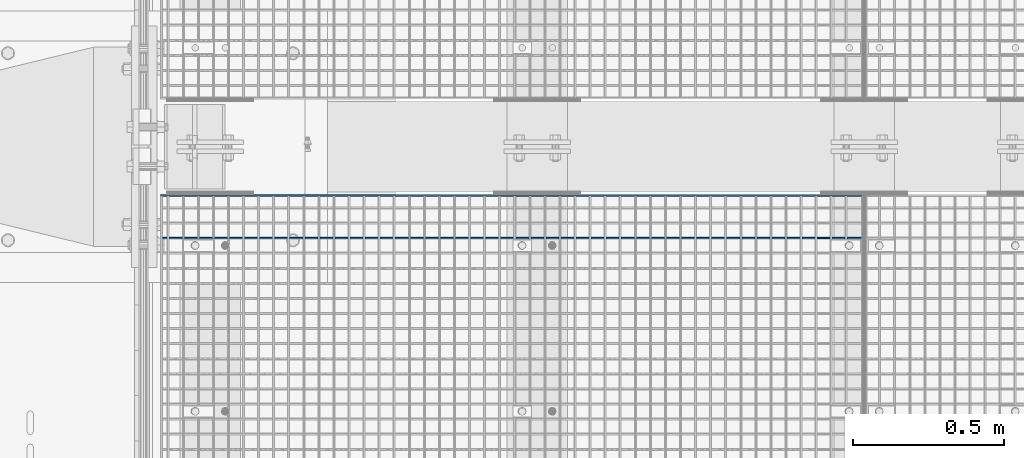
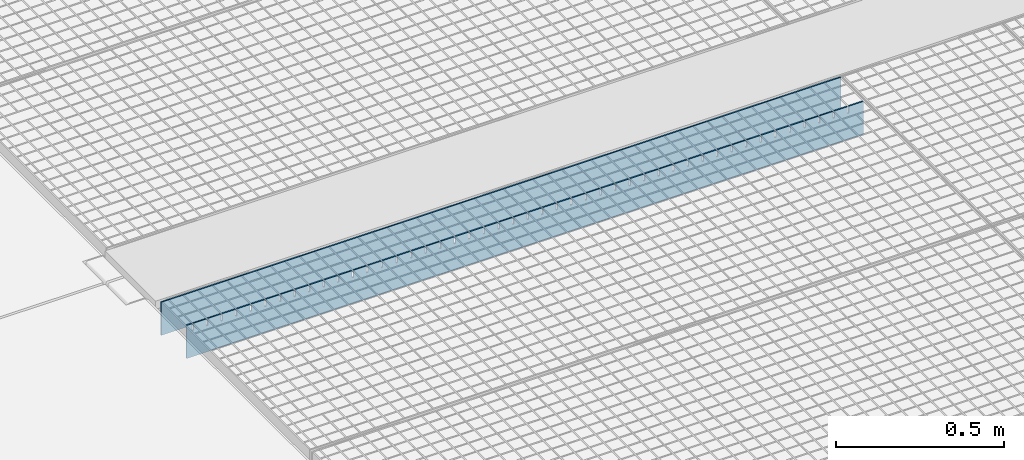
# One storey, part 320 of 1530: 2 beams.
"""IFC2X3 building model written with IfcOpenShell, lengths in millimetres."""

from ifc_helpers import new_model, si_unit, frame, origin_with_axes, place, context, subcontext, project, spatial, faceted_brep, material, type_object, element, save


model = new_model("IFC2X3")

# Units and contexts
model_context = context("Model", 3, precision=1e-05, world=origin_with_axes())
body_context = subcontext(model_context, "Body", "Model", "MODEL_VIEW")
ifc_project = project(units=[si_unit("LENGTHUNIT", "METRE", prefix="MILLI"), si_unit("AREAUNIT", "SQUARE_METRE"), si_unit("VOLUMEUNIT", "CUBIC_METRE"), si_unit("MASSUNIT", "GRAM", prefix="KILO"), si_unit("TIMEUNIT", "SECOND"), si_unit("PLANEANGLEUNIT", "RADIAN"), si_unit("SOLIDANGLEUNIT", "STERADIAN"), si_unit("THERMODYNAMICTEMPERATUREUNIT", "DEGREE_CELSIUS"), si_unit("LUMINOUSINTENSITYUNIT", "LUMEN")], contexts=[model_context])

# Site, building, storey
site_placement = place(None, origin_with_axes())
site = spatial("IfcSite", under=ifc_project, at=site_placement, Name="Brattvåg", CompositionType="ELEMENT")
building_placement = place(site_placement, origin_with_axes())
building = spatial("IfcBuilding", under=site, at=building_placement, Name="Undefined", CompositionType="ELEMENT")
storey_placement = place(building_placement, origin_with_axes())
storey = spatial("IfcBuildingStorey", under=building, at=storey_placement, Name="Undefined", CompositionType="ELEMENT", Elevation=0.0)

# Beams
ifc_material = material(Name="STEEL/S355J2")
beam_type = type_object("IfcBeamType", Name="120*5", PredefinedType="NOTDEFINED")
beam_1_placement = place(storey_placement, frame((2347.01317977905, 5696.99563598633, -59.9998626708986), z_axis=(0.0, 0.0, 1.0), x_axis=(-1.0, 1.99999855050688e-09, 0.0)))
element("IfcBeam", 1, at=beam_1_placement, inside=storey, type_object=beam_type, material=ifc_material, Name="GRATING", context=body_context, shape_type="Brep", body=[
    faceted_brep([(99.4490367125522, -2.50000000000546, 60.0000722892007), (99.4490367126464, -2.50000000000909, 35.0001373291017), (99.4490367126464, 2.50022888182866, 35.0001373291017), (99.4490367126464, 2.5, 60.0), (104.449036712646, -2.50000000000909, 35.0001373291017), (104.449036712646, 2.50022888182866, 35.0001373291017), (104.449036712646, -2.50000000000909, 60.0001373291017), (104.449036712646, 2.5, 60.0), (54.5084370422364, -2.50000000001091, 60.0001373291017), (54.5084370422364, 2.5, 60.0), (54.5084370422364, 2.49999999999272, 35.0001373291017), (54.5084370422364, -2.50000000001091, 35.0001373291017), (49.5084370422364, 2.49999999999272, 35.0001373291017), (49.5084370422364, -2.50000000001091, 35.0001373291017), (49.5084370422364, -2.5, 60.0), (49.5084370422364, 2.5, 60.0), (0.0, 2.5, 60.0), (0.0, -2.5, 60.0), (0.0, -2.5, -60.0), (0.0, 2.5, -60.0), (2319.99865722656, 2.5, -60.0), (2319.99865722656, -2.5, -60.0), (2319.99865722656, -2.5, 60.0), (2319.99865722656, 2.5, 60.0), (2302.24871932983, 2.5, 60.0), (2302.24871932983, -2.50000000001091, 60.0001373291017), (2302.24871932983, 2.49999999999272, 35.0001373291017), (2302.24871932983, -2.50000000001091, 35.0001373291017), (2297.24871932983, 2.49999999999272, 35.0001373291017), (2297.24871932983, -2.50000000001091, 35.0001373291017), (2297.24871932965, -2.50000000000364, 60.0000461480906), (2297.24871932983, 2.5, 60.0), (2252.29859649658, 2.5, 60.0), (2252.29859649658, -2.50000000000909, 60.0001373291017), (2252.29859649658, 2.50022888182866, 35.0001373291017), (2252.29859649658, -2.50000000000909, 35.0001373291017), (2247.29859649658, 2.50022888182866, 35.0001373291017), (2247.29859649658, -2.50000000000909, 35.0001373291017), (2247.29859649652, -2.50000000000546, 60.0000848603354), (2247.29859649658, 2.5, 60.0), (2202.34847366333, 2.5, 60.0), (2202.34847366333, -2.50000000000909, 60.0001373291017), (2202.34847366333, 2.50022888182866, 35.0001373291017), (2202.34847366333, -2.50000000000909, 35.0001373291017), (2197.34847366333, 2.50022888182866, 35.0001373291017), (2197.34847366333, -2.50000000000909, 35.0001373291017), (2197.34847366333, -2.5, 60.0), (2197.34847366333, 2.5, 60.0), (2152.39882766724, 2.5, 60.0), (2152.39882766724, -2.50000000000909, 60.0001373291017), (2152.39882766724, 2.50022888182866, 35.0001373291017), (2152.39882766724, -2.50000000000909, 35.0001373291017), (2147.39882766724, 2.50022888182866, 35.0001373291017), (2147.39882766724, -2.50000000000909, 35.0001373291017), (2147.39882766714, -2.50000000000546, 60.0000722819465), (2147.39882766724, 2.5, 60.0), (2102.44870483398, 2.5, 60.0), (2102.44870483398, -2.50000000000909, 60.0001373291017), (2102.44870483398, 2.50022888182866, 35.0001373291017), (2102.44870483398, -2.50000000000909, 35.0001373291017), (2097.44870483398, 2.50022888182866, 35.0001373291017), (2097.44870483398, -2.50000000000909, 35.0001373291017), (2097.44870483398, -2.5, 60.0), (2097.44870483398, 2.5, 60.0), (2052.49858200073, 2.5, 60.0), (2052.49858200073, -2.50000000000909, 60.0001373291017), (2052.49858200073, 2.50022888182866, 35.0001373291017), (2052.49858200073, -2.50000000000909, 35.0001373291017), (2047.49858200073, 2.50022888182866, 35.0001373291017), (2047.49858200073, -2.50000000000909, 35.0001373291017), (2047.49858200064, -2.50000000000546, 60.0000722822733), (2047.49858200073, 2.5, 60.0), (2002.54845916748, 2.5, 60.0), (2002.54845916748, -2.50000000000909, 60.0001373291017), (2002.54845916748, 2.50022888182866, 35.0001373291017), (2002.54845916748, -2.50000000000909, 35.0001373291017), (1997.54845916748, 2.50022888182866, 35.0001373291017), (1997.54845916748, -2.50000000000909, 35.0001373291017), (1997.54845916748, -2.5, 60.0), (1997.54845916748, 2.5, 60.0), (1952.59881317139, 2.5, 60.0), (1952.59881317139, -2.50000000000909, 60.0001373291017), (1952.59881317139, 2.50022888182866, 35.0001373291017), (1952.59881317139, -2.50000000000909, 35.0001373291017), (1947.59881317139, 2.50022888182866, 35.0001373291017), (1947.59881317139, -2.50000000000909, 35.0001373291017), (1947.59881317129, -2.50000000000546, 60.0000722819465), (1947.59881317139, 2.5, 60.0), (1902.64869033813, 2.5, 60.0), (1902.64869033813, -2.50000000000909, 60.0001373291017), (1902.64869033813, 2.50022888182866, 35.0001373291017), (1902.64869033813, -2.50000000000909, 35.0001373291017), (1897.64869033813, 2.50022888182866, 35.0001373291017), (1897.64869033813, -2.50000000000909, 35.0001373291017), (1897.64869033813, -2.5, 60.0), (1897.64869033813, 2.5, 60.0), (1852.69856750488, 2.5, 60.0), (1852.69856750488, -2.50000000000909, 60.0001373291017), (1852.69856750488, 2.50022888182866, 35.0001373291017), (1852.69856750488, -2.50000000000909, 35.0001373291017), (1847.69856750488, 2.50022888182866, 35.0001373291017), (1847.69856750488, -2.50000000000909, 35.0001373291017), (1847.69856750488, -2.5, 60.0), (1847.69856750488, 2.5, 60.0), (1802.74892150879, 2.5, 60.0), (1802.74892150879, -2.50000000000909, 60.0001373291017), (1802.74892150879, 2.50022888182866, 35.0001373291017), (1802.74892150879, -2.50000000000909, 35.0001373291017), (1797.74892150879, 2.50022888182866, 35.0001373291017), (1797.74892150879, -2.50000000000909, 35.0001373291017), (1797.74892150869, -2.50000000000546, 60.0000722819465), (1797.74892150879, 2.5, 60.0), (1752.79879867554, 2.5, 60.0), (1752.79879867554, -2.50000000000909, 60.0001373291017), (1752.79879867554, 2.50022888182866, 35.0001373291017), (1752.79879867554, -2.50000000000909, 35.0001373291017), (1747.79879867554, 2.50022888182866, 35.0001373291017), (1747.79879867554, -2.50000000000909, 35.0001373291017), (1747.79879867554, -2.5, 60.0), (1747.79879867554, 2.5, 60.0), (1702.84867584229, 2.5, 60.0), (1702.84867584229, -2.50000000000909, 60.0001373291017), (1702.84867584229, 2.50022888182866, 35.0001373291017), (1702.84867584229, -2.50000000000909, 35.0001373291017), (1697.84867584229, 2.50022888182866, 35.0001373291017), (1697.84867584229, -2.50000000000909, 35.0001373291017), (1697.84867584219, -2.50000000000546, 60.0000722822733), (1697.84867584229, 2.5, 60.0), (1652.89855300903, 2.5, 60.0), (1652.89855300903, -2.50000000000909, 60.0001373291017), (1652.89855300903, 2.50022888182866, 35.0001373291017), (1652.89855300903, -2.50000000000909, 35.0001373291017), (1647.89855300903, 2.50022888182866, 35.0001373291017), (1647.89855300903, -2.50000000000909, 35.0001373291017), (1647.89855300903, -2.5, 60.0), (1647.89855300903, 2.5, 60.0), (1602.94890701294, 2.5, 60.0), (1602.94890701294, -2.50000000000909, 60.0001373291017), (1602.94890701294, 2.50022888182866, 35.0001373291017), (1602.94890701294, -2.50000000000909, 35.0001373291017), (1597.94890701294, 2.50022888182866, 35.0001373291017), (1597.94890701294, -2.50000000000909, 35.0001373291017), (1597.94890701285, -2.50000000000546, 60.0000722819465), (1597.94890701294, 2.5, 60.0), (1552.99878417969, 2.5, 60.0), (1552.99878417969, -2.50000000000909, 60.0001373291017), (1552.99878417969, 2.50022888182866, 35.0001373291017), (1552.99878417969, -2.50000000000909, 35.0001373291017), (1547.99878417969, 2.50022888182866, 35.0001373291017), (1547.99878417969, -2.50000000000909, 35.0001373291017), (1547.99878417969, -2.5, 60.0), (1547.99878417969, 2.5, 60.0), (1503.04866134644, 2.5, 60.0), (1503.04866134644, -2.50000000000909, 60.0001373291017), (1503.04866134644, 2.50022888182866, 35.0001373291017), (1503.04866134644, -2.50000000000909, 35.0001373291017), (1498.04866134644, 2.50022888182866, 35.0001373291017), (1498.04866134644, -2.50000000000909, 35.0001373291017), (1498.04866134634, -2.50000000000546, 60.0000722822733), (1498.04866134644, 2.5, 60.0), (1453.09853851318, 2.5, 60.0), (1453.09853851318, -2.50000000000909, 60.0001373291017), (1453.09853851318, 2.50022888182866, 35.0001373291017), (1453.09853851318, -2.50000000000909, 35.0001373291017), (1448.09853851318, 2.50022888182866, 35.0001373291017), (1448.09853851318, -2.50000000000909, 35.0001373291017), (1448.09853851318, -2.5, 60.0), (1448.09853851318, 2.5, 60.0), (1403.14889251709, 2.5, 60.0), (1403.14889251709, -2.50000000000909, 60.0001373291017), (1403.14889251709, 2.50022888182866, 35.0001373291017), (1403.14889251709, -2.50000000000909, 35.0001373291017), (1398.14889251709, 2.50022888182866, 35.0001373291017), (1398.14889251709, -2.50000000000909, 35.0001373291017), (1398.148892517, -2.50000000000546, 60.0000722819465), (1398.14889251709, 2.5, 60.0), (1353.19876968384, 2.5, 60.0), (1353.19876968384, -2.50000000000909, 60.0001373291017), (1353.19876968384, 2.50022888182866, 35.0001373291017), (1353.19876968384, -2.50000000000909, 35.0001373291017), (1348.19876968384, 2.50022888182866, 35.0001373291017), (1348.19876968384, -2.50000000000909, 35.0001373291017), (1348.19876968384, -2.5, 60.0), (1348.19876968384, 2.5, 60.0), (1303.24864685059, 2.5, 60.0), (1303.24864685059, -2.50000000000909, 60.0001373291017), (1303.24864685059, 2.50022888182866, 35.0001373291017), (1303.24864685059, -2.50000000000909, 35.0001373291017), (1298.24864685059, 2.50022888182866, 35.0001373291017), (1298.24864685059, -2.50000000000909, 35.0001373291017), (1298.24864685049, -2.50000000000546, 60.0000722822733), (1298.24864685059, 2.5, 60.0), (1253.29852401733, 2.5, 60.0), (1253.29852401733, -2.50000000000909, 60.0001373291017), (1253.29852401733, 2.50022888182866, 35.0001373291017), (1253.29852401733, -2.50000000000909, 35.0001373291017), (1248.29852401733, 2.50022888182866, 35.0001373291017), (1248.29852401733, -2.50000000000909, 35.0001373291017), (1248.29852401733, -2.5, 60.0), (1248.29852401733, 2.5, 60.0), (1203.34887802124, 2.5, 60.0), (1203.34887802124, -2.50000000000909, 60.0001373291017), (1203.34887802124, 2.50022888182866, 35.0001373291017), (1203.34887802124, -2.50000000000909, 35.0001373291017), (1198.34887802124, 2.50022888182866, 35.0001373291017), (1198.34887802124, -2.50000000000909, 35.0001373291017), (1198.34887802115, -2.50000000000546, 60.0000722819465), (1198.34887802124, 2.5, 60.0), (1153.39875518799, 2.5, 60.0), (1153.39875518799, -2.50000000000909, 60.0001373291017), (1153.39875518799, 2.50022888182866, 35.0001373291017), (1153.39875518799, -2.50000000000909, 35.0001373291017), (1148.39875518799, 2.50022888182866, 35.0001373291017), (1148.39875518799, -2.50000000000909, 35.0001373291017), (1148.39875518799, -2.5, 60.0), (1148.39875518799, 2.5, 60.0), (1103.44863235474, 2.5, 60.0), (1103.44863235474, -2.50000000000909, 60.0001373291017), (1103.44863235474, 2.50022888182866, 35.0001373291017), (1103.44863235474, -2.50000000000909, 35.0001373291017), (1098.44863235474, 2.50022888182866, 35.0001373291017), (1098.44863235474, -2.50000000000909, 35.0001373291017), (1098.44863235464, -2.50000000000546, 60.0000722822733), (1098.44863235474, 2.5, 60.0), (1053.49850952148, 2.5, 60.0), (1053.49850952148, -2.50000000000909, 60.0001373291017), (1053.49850952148, 2.50022888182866, 35.0001373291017), (1053.49850952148, -2.50000000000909, 35.0001373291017), (1048.49850952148, 2.50022888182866, 35.0001373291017), (1048.49850952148, -2.50000000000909, 35.0001373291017), (1048.49850952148, -2.5, 60.0), (1048.49850952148, 2.5, 60.0), (1003.54886352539, 2.5, 60.0), (1003.54886352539, -2.50000000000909, 60.0001373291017), (1003.54886352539, 2.50022888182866, 35.0001373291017), (1003.54886352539, -2.50000000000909, 35.0001373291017), (998.548863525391, 2.50022888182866, 35.0001373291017), (998.548863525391, -2.50000000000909, 35.0001373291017), (998.548863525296, -2.50000000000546, 60.0000722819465), (998.548863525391, 2.5, 60.0), (953.598740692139, 2.5, 60.0), (953.598740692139, -2.50000000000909, 60.0001373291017), (953.598740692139, 2.50022888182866, 35.0001373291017), (953.598740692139, -2.50000000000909, 35.0001373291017), (948.598740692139, 2.50022888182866, 35.0001373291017), (948.598740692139, -2.50000000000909, 35.0001373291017), (948.598740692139, -2.5, 60.0), (948.598740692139, 2.5, 60.0), (903.648617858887, 2.5, 60.0), (903.648617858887, -2.50000000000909, 60.0001373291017), (903.648617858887, 2.50022888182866, 35.0001373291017), (903.648617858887, -2.50000000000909, 35.0001373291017), (898.648617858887, 2.50022888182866, 35.0001373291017), (898.648617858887, -2.50000000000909, 35.0001373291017), (898.648617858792, -2.50000000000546, 60.0000722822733), (898.648617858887, 2.5, 60.0), (853.698495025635, 2.5, 60.0), (853.698495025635, -2.50000000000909, 60.0001373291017), (853.698495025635, 2.50022888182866, 35.0001373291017), (853.698495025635, -2.50000000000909, 35.0001373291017), (848.698495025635, 2.50022888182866, 35.0001373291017), (848.698495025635, -2.50000000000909, 35.0001373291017), (848.698495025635, -2.5, 60.0), (848.698495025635, 2.5, 60.0), (803.748849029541, 2.5, 60.0), (803.748849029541, -2.50000000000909, 60.0001373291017), (803.748849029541, 2.50022888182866, 35.0001373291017), (803.748849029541, -2.50000000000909, 35.0001373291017), (798.748849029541, 2.50022888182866, 35.0001373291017), (798.748849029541, -2.50000000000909, 35.0001373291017), (798.748849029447, -2.50000000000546, 60.0000722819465), (798.748849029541, 2.5, 60.0), (753.798726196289, 2.5, 60.0), (753.798726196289, -2.50000000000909, 60.0001373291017), (753.798726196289, 2.50022888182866, 35.0001373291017), (753.798726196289, -2.50000000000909, 35.0001373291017), (748.798726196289, 2.50022888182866, 35.0001373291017), (748.798726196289, -2.50000000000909, 35.0001373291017), (748.798726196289, -2.5, 60.0), (748.798726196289, 2.5, 60.0), (703.848603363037, 2.5, 60.0), (703.848603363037, -2.50000000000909, 60.0001373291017), (703.848603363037, 2.50022888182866, 35.0001373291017), (703.848603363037, -2.50000000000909, 35.0001373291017), (698.848603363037, 2.50022888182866, 35.0001373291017), (698.848603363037, -2.50000000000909, 35.0001373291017), (698.848603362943, -2.50000000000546, 60.0000722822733), (698.848603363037, 2.5, 60.0), (653.898480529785, 2.5, 60.0), (653.898480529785, -2.50000000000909, 60.0001373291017), (653.898480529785, 2.50022888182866, 35.0001373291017), (653.898480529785, -2.50000000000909, 35.0001373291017), (648.898480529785, 2.50022888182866, 35.0001373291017), (648.898480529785, -2.50000000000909, 35.0001373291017), (648.898480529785, -2.5, 60.0), (648.898480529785, 2.5, 60.0), (603.948834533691, 2.5, 60.0), (603.948834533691, -2.50000000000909, 60.0001373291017), (603.948834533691, 2.50022888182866, 35.0001373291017), (603.948834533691, -2.50000000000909, 35.0001373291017), (598.948834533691, 2.50022888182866, 35.0001373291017), (598.948834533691, -2.50000000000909, 35.0001373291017), (598.948834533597, -2.50000000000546, 60.0000722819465), (598.948834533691, 2.5, 60.0), (553.998711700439, 2.5, 60.0), (553.998711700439, -2.50000000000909, 60.0001373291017), (553.998711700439, 2.50022888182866, 35.0001373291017), (553.998711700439, -2.50000000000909, 35.0001373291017), (548.998711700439, 2.50022888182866, 35.0001373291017), (548.998711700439, -2.50000000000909, 35.0001373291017), (548.998711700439, -2.5, 60.0), (548.998711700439, 2.5, 60.0), (504.048588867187, 2.5, 60.0), (504.048588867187, -2.50000000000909, 60.0001373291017), (504.048588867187, 2.50022888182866, 35.0001373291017), (504.048588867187, -2.50000000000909, 35.0001373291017), (499.048588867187, 2.50022888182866, 35.0001373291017), (499.048588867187, -2.50000000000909, 35.0001373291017), (499.048588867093, -2.50000000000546, 60.0000722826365), (499.048588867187, 2.5, 60.0), (454.098942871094, 2.5, 60.0), (454.098942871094, -2.50000000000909, 60.0001373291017), (454.098942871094, 2.50022888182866, 35.0001373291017), (454.098942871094, -2.50000000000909, 35.0001373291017), (449.098942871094, 2.50022888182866, 35.0001373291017), (449.098942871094, -2.50000000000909, 35.0001373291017), (449.098942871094, -2.5, 60.0), (449.098942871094, 2.5, 60.0), (404.148820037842, 2.5, 60.0), (404.148820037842, -2.50000000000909, 60.0001373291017), (404.148820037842, 2.50022888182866, 35.0001373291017), (404.148820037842, -2.50000000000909, 35.0001373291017), (399.148820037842, 2.50022888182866, 35.0001373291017), (399.148820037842, -2.50000000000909, 35.0001373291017), (399.148820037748, -2.50000000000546, 60.0000722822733), (399.148820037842, 2.5, 60.0), (354.19869720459, 2.5, 60.0), (354.19869720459, -2.50000000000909, 60.0001373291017), (354.19869720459, 2.50022888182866, 35.0001373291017), (354.19869720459, -2.50000000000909, 35.0001373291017), (349.19869720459, 2.50022888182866, 35.0001373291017), (349.19869720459, -2.50000000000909, 35.0001373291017), (349.19869720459, -2.5, 60.0), (349.19869720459, 2.5, 60.0), (304.248574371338, 2.5, 60.0), (304.248574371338, -2.50000000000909, 60.0001373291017), (304.248574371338, 2.50022888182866, 35.0001373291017), (304.248574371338, -2.50000000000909, 35.0001373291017), (299.248574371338, 2.50022888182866, 35.0001373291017), (299.248574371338, -2.50000000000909, 35.0001373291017), (299.248574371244, -2.50000000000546, 60.0000722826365), (299.248574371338, 2.5, 60.0), (254.298928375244, 2.5, 60.0), (254.298928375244, -2.50000000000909, 60.0001373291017), (254.298928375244, 2.50022888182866, 35.0001373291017), (254.298928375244, -2.50000000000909, 35.0001373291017), (249.298928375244, 2.50022888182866, 35.0001373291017), (249.298928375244, -2.50000000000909, 35.0001373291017), (249.298928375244, -2.5, 60.0), (249.298928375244, 2.5, 60.0), (204.348328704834, 2.5, 60.0), (204.348328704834, -2.50000000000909, 60.0001373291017), (204.348328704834, 2.50022888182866, 35.0001373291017), (204.348328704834, -2.50000000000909, 35.0001373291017), (199.348328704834, 2.50022888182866, 35.0001373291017), (199.348328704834, -2.50000000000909, 35.0001373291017), (199.34832870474, -2.50000000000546, 60.0000722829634), (199.348328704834, 2.5, 60.0), (154.39868270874, 2.5, 60.0), (154.39868270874, -2.50000000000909, 60.0001373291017), (154.39868270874, 2.50022888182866, 35.0001373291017), (154.39868270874, -2.50000000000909, 35.0001373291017), (149.39868270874, 2.50022888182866, 35.0001373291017), (149.39868270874, -2.50000000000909, 35.0001373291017), (149.39868270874, -2.5, 60.0), (149.39868270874, 2.5, 60.0)], [[[0, 1, 2, 3]], [[4, 5, 2, 1]], [[6, 7, 5, 4]], [[8, 9, 10, 11]], [[11, 10, 12, 13]], [[14, 13, 12, 15]], [[16, 17, 14, 15]], [[18, 17, 16, 19]], [[18, 19, 20, 21]], [[22, 21, 20, 23]], [[22, 23, 24, 25]], [[25, 24, 26, 27]], [[27, 26, 28, 29]], [[30, 29, 28, 31]], [[32, 33, 30, 31]], [[33, 32, 34, 35]], [[35, 34, 36, 37]], [[38, 37, 36, 39]], [[40, 41, 38, 39]], [[41, 40, 42, 43]], [[43, 42, 44, 45]], [[46, 45, 44, 47]], [[46, 47, 48, 49]], [[49, 48, 50, 51]], [[51, 50, 52, 53]], [[54, 53, 52, 55]], [[56, 57, 54, 55]], [[57, 56, 58, 59]], [[59, 58, 60, 61]], [[62, 61, 60, 63]], [[62, 63, 64, 65]], [[65, 64, 66, 67]], [[67, 66, 68, 69]], [[70, 69, 68, 71]], [[72, 73, 70, 71]], [[73, 72, 74, 75]], [[75, 74, 76, 77]], [[78, 77, 76, 79]], [[78, 79, 80, 81]], [[81, 80, 82, 83]], [[83, 82, 84, 85]], [[86, 85, 84, 87]], [[88, 89, 86, 87]], [[89, 88, 90, 91]], [[91, 90, 92, 93]], [[94, 93, 92, 95]], [[94, 95, 96, 97]], [[97, 96, 98, 99]], [[99, 98, 100, 101]], [[102, 101, 100, 103]], [[102, 103, 104, 105]], [[105, 104, 106, 107]], [[107, 106, 108, 109]], [[110, 109, 108, 111]], [[112, 113, 110, 111]], [[113, 112, 114, 115]], [[115, 114, 116, 117]], [[118, 117, 116, 119]], [[118, 119, 120, 121]], [[121, 120, 122, 123]], [[123, 122, 124, 125]], [[126, 125, 124, 127]], [[128, 129, 126, 127]], [[129, 128, 130, 131]], [[131, 130, 132, 133]], [[134, 133, 132, 135]], [[134, 135, 136, 137]], [[137, 136, 138, 139]], [[139, 138, 140, 141]], [[142, 141, 140, 143]], [[144, 145, 142, 143]], [[145, 144, 146, 147]], [[147, 146, 148, 149]], [[150, 149, 148, 151]], [[150, 151, 152, 153]], [[153, 152, 154, 155]], [[155, 154, 156, 157]], [[158, 157, 156, 159]], [[160, 161, 158, 159]], [[161, 160, 162, 163]], [[163, 162, 164, 165]], [[166, 165, 164, 167]], [[166, 167, 168, 169]], [[169, 168, 170, 171]], [[171, 170, 172, 173]], [[174, 173, 172, 175]], [[176, 177, 174, 175]], [[177, 176, 178, 179]], [[179, 178, 180, 181]], [[182, 181, 180, 183]], [[182, 183, 184, 185]], [[185, 184, 186, 187]], [[187, 186, 188, 189]], [[190, 189, 188, 191]], [[192, 193, 190, 191]], [[193, 192, 194, 195]], [[195, 194, 196, 197]], [[198, 197, 196, 199]], [[198, 199, 200, 201]], [[201, 200, 202, 203]], [[203, 202, 204, 205]], [[206, 205, 204, 207]], [[208, 209, 206, 207]], [[209, 208, 210, 211]], [[211, 210, 212, 213]], [[214, 213, 212, 215]], [[214, 215, 216, 217]], [[217, 216, 218, 219]], [[219, 218, 220, 221]], [[222, 221, 220, 223]], [[224, 225, 222, 223]], [[225, 224, 226, 227]], [[227, 226, 228, 229]], [[230, 229, 228, 231]], [[230, 231, 232, 233]], [[233, 232, 234, 235]], [[235, 234, 236, 237]], [[238, 237, 236, 239]], [[240, 241, 238, 239]], [[241, 240, 242, 243]], [[243, 242, 244, 245]], [[246, 245, 244, 247]], [[246, 247, 248, 249]], [[249, 248, 250, 251]], [[251, 250, 252, 253]], [[254, 253, 252, 255]], [[256, 257, 254, 255]], [[257, 256, 258, 259]], [[259, 258, 260, 261]], [[262, 261, 260, 263]], [[262, 263, 264, 265]], [[265, 264, 266, 267]], [[267, 266, 268, 269]], [[270, 269, 268, 271]], [[272, 273, 270, 271]], [[273, 272, 274, 275]], [[275, 274, 276, 277]], [[278, 277, 276, 279]], [[278, 279, 280, 281]], [[281, 280, 282, 283]], [[283, 282, 284, 285]], [[286, 285, 284, 287]], [[288, 289, 286, 287]], [[289, 288, 290, 291]], [[291, 290, 292, 293]], [[294, 293, 292, 295]], [[294, 295, 296, 297]], [[297, 296, 298, 299]], [[299, 298, 300, 301]], [[302, 301, 300, 303]], [[304, 305, 302, 303]], [[305, 304, 306, 307]], [[307, 306, 308, 309]], [[310, 309, 308, 311]], [[310, 311, 312, 313]], [[313, 312, 314, 315]], [[315, 314, 316, 317]], [[318, 317, 316, 319]], [[320, 321, 318, 319]], [[321, 320, 322, 323]], [[323, 322, 324, 325]], [[326, 325, 324, 327]], [[326, 327, 328, 329]], [[329, 328, 330, 331]], [[331, 330, 332, 333]], [[334, 333, 332, 335]], [[336, 337, 334, 335]], [[337, 336, 338, 339]], [[339, 338, 340, 341]], [[342, 341, 340, 343]], [[342, 343, 344, 345]], [[345, 344, 346, 347]], [[347, 346, 348, 349]], [[350, 349, 348, 351]], [[352, 353, 350, 351]], [[353, 352, 354, 355]], [[355, 354, 356, 357]], [[358, 357, 356, 359]], [[358, 359, 360, 361]], [[361, 360, 362, 363]], [[363, 362, 364, 365]], [[366, 365, 364, 367]], [[368, 369, 366, 367]], [[369, 368, 370, 371]], [[371, 370, 372, 373]], [[374, 373, 372, 375]], [[1, 0, 8, 11, 13, 14, 17, 18, 21, 22, 25, 27, 29, 30, 33, 35, 37, 38, 41, 43, 45, 46, 49, 51, 53, 54, 57, 59, 61, 62, 65, 67, 69, 70, 73, 75, 77, 78, 81, 83, 85, 86, 89, 91, 93, 94, 97, 99, 101, 102, 105, 107, 109, 110, 113, 115, 117, 118, 121, 123, 125, 126, 129, 131, 133, 134, 137, 139, 141, 142, 145, 147, 149, 150, 153, 155, 157, 158, 161, 163, 165, 166, 169, 171, 173, 174, 177, 179, 181, 182, 185, 187, 189, 190, 193, 195, 197, 198, 201, 203, 205, 206, 209, 211, 213, 214, 217, 219, 221, 222, 225, 227, 229, 230, 233, 235, 237, 238, 241, 243, 245, 246, 249, 251, 253, 254, 257, 259, 261, 262, 265, 267, 269, 270, 273, 275, 277, 278, 281, 283, 285, 286, 289, 291, 293, 294, 297, 299, 301, 302, 305, 307, 309, 310, 313, 315, 317, 318, 321, 323, 325, 326, 329, 331, 333, 334, 337, 339, 341, 342, 345, 347, 349, 350, 353, 355, 357, 358, 361, 363, 365, 366, 369, 371, 373, 374, 6, 4]], [[9, 8, 0, 3]], [[375, 372, 370, 368, 367, 364, 362, 360, 359, 356, 354, 352, 351, 348, 346, 344, 343, 340, 338, 336, 335, 332, 330, 328, 327, 324, 322, 320, 319, 316, 314, 312, 311, 308, 306, 304, 303, 300, 298, 296, 295, 292, 290, 288, 287, 284, 282, 280, 279, 276, 274, 272, 271, 268, 266, 264, 263, 260, 258, 256, 255, 252, 250, 248, 247, 244, 242, 240, 239, 236, 234, 232, 231, 228, 226, 224, 223, 220, 218, 216, 215, 212, 210, 208, 207, 204, 202, 200, 199, 196, 194, 192, 191, 188, 186, 184, 183, 180, 178, 176, 175, 172, 170, 168, 167, 164, 162, 160, 159, 156, 154, 152, 151, 148, 146, 144, 143, 140, 138, 136, 135, 132, 130, 128, 127, 124, 122, 120, 119, 116, 114, 112, 111, 108, 106, 104, 103, 100, 98, 96, 95, 92, 90, 88, 87, 84, 82, 80, 79, 76, 74, 72, 71, 68, 66, 64, 63, 60, 58, 56, 55, 52, 50, 48, 47, 44, 42, 40, 39, 36, 34, 32, 31, 28, 26, 24, 23, 20, 19, 16, 15, 12, 10, 9, 3, 2, 5, 7]], [[374, 375, 7, 6]]]),
])
beam_2_placement = place(storey_placement, frame((2352.00899291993, 5838.49917602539, -59.9998626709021), z_axis=(0.0, 0.0, 1.0), x_axis=(-1.0, 1.99999855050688e-09, 0.0)))
element("IfcBeam", 2, at=beam_2_placement, inside=storey, type_object=beam_type, material=ifc_material, Name="GRATING", context=body_context, shape_type="Brep", body=[
    faceted_brep([(0.0, 2.5, -60.0), (0.0, 2.5, 60.0), (2329.99832153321, 2.5, 60.0), (2329.99832153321, 2.5, -60.0), (0.0, -2.5, 60.0), (2329.99832153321, -2.5, 60.0), (0.0, -2.5, -60.0), (2329.99832153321, -2.5, -60.0)], [[[0, 1, 2, 3]], [[1, 4, 5, 2]], [[4, 6, 7, 5]], [[6, 0, 3, 7]], [[5, 7, 3, 2]], [[6, 4, 1, 0]]]),
])

save(model, "model.ifc")
